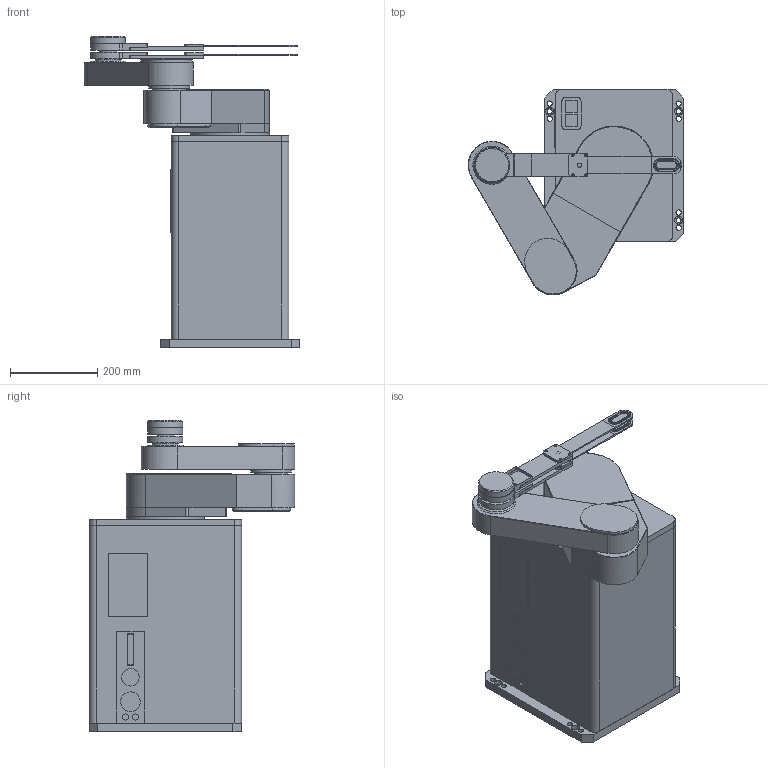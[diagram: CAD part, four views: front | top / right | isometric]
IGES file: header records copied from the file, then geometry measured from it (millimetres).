
Global section: file name: GTCR5280-300-AM-06244; native system: Autodesk Inventor 2018; preprocessor: unknown; author: m-takamori; date: 20180405.132522; units: millimetre
Bounding box: 494.96 x 472.47 x 715 mm (x, y, z)
Volume: 55275024.3 mm3; surface area: 1724720.4 mm2
Topology: 10 solids, 10 shells, 381 faces, 964 edges, 645 vertices
Faces by surface type: bspline 381
